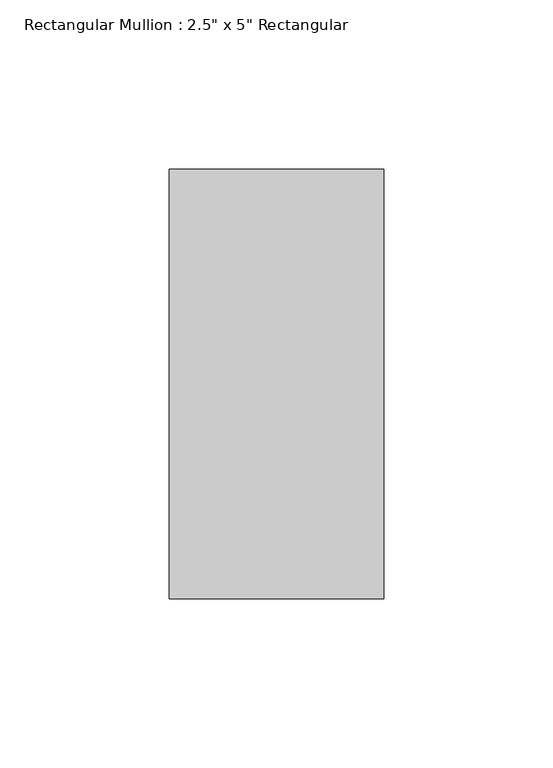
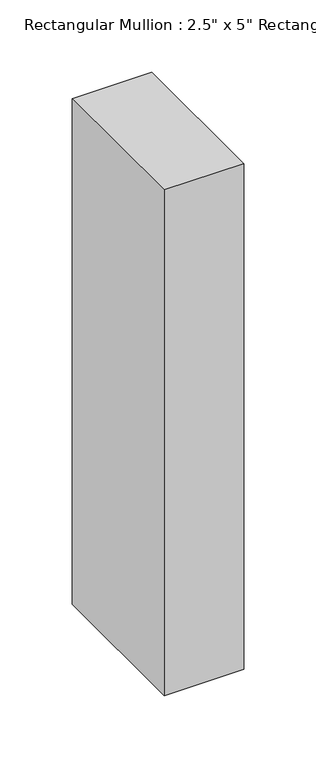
"""IFC4 building model written with IfcOpenShell, lengths in millimetres: member geometry."""

from ifc_helpers import new_model, si_unit, frame, origin, place, context, project, spatial, polyline, outline, extrude, source, transform, mapped, element, save


def member_308ea782(model_context):
    return source(origin(), model_context, "Body", "SweptSolid", [
        extrude(outline(polyline([(0.0, 63.5), (0.0, -63.5), (-63.5, -63.5), (-63.5, 63.5), (0.0, 63.5)])), frame((0.0, 0.0, -427.099623), z_axis=(0.0, 0.0, 1.0), x_axis=(1.0, 0.0, 0.0)), (0.0, 0.0, 1.0), 427.099623),
    ])


if __name__ == "__main__":
    model = new_model("IFC4")
    model_context = context("Model", 3, world=origin())
    ifc_project = project(units=[si_unit("LENGTHUNIT", "METRE", prefix="MILLI")], contexts=[model_context])
    site = spatial("IfcSite", under=ifc_project)
    building = spatial("IfcBuilding", under=site)
    placement = place(None, origin())
    member_shape = member_308ea782(model_context)
    element("IfcMember", 1, ObjectType="Rectangular Mullion : 2.5\" x 5\" Rectangular", at=placement, inside=building, context=model_context, shape_type="MappedRepresentation", body=[
        mapped(member_shape, transform((0.0, 0.0, 0.0), x_axis=(1.0, 0.0, 0.0), y_axis=(0.0, 1.0, 0.0), z_axis=(0.0, 0.0, 1.0))),
    ])
    save(model, "model.ifc")
